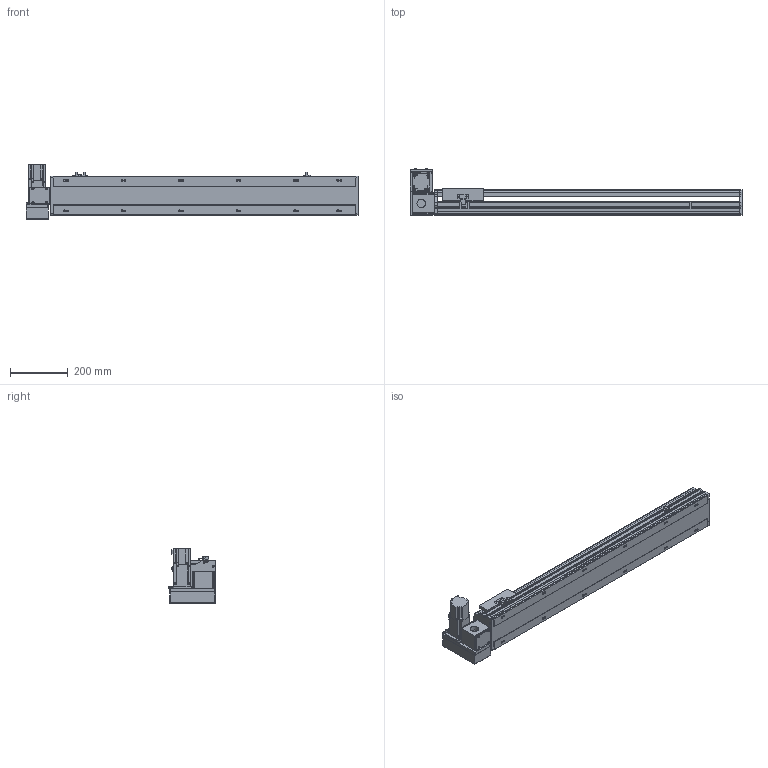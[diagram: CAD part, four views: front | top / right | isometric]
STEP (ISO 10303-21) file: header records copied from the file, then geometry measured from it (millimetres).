
FILE_DESCRIPTION( ( 'STEP AP214' ), '1' );
FILE_NAME( 'x:/temp/worker_6/temp/exporttempdir_5396_126_ulho5/format_0/PBS140S-P40-S800-LU-T40-C1-N(0).stp', '2022-06-09T00:33:54', ( 'License CC BY-ND 4.0' ), ( 'CADENAS' ), ' ', 'PARTsolutions', ' ' );
FILE_SCHEMA( ( 'AUTOMOTIVE_DESIGN { 1 0 10303 214 1 1 1 1 }' ) );
Length unit declared in the file: millimetre
Products named in the file (7): PBS140S-P40-S800-LU-T40-C1-N(0); _PBS140S-S800()_body; _PBS140ST-LU_motors; _T40-p1; _PBS140S_sliser; _PBS140S_plant; _PBS140S_sensor
Assembly tree (8 placements, depth 2):
  PBS140S-P40-S800-LU-T40-C1-N(0)
    _PBS140S-S800()_body
    _PBS140ST-LU_motors
    _T40-p1
    _PBS140S_sliser
    _PBS140S_plant
    _PBS140S_sensor  x3
Bounding box: 1154 x 162.5 x 189.7 mm (x, y, z)
Volume: 6129188.3 mm3; surface area: 1069871.5 mm2
Topology: 8 solids, 8 shells, 1067 faces, 2831 edges, 1853 vertices
Faces by surface type: plane 690, cylinder 329, cone 38, sphere 8, torus 2
Full cylindrical faces by diameter (mm): 3.242 x4, 4 x2, 4.134 x4, 4.4 x8, 4.5 x2, 4.8 x4, 4.917 x20, 5.5 x7, 6 x2, 7 x14, 7.5 x8, 8 x12, 8.5 x4, 10.5 x12, 14 x1, 30 x2, 50 x2
Entity records: 39052 total; most frequent: CARTESIAN_POINT 6070, DIRECTION 5208, ORIENTED_EDGE 4942, EDGE_CURVE 2471, AXIS2_PLACEMENT_3D 1799, VERTEX_POINT 1705, LINE 1610, VECTOR 1610
